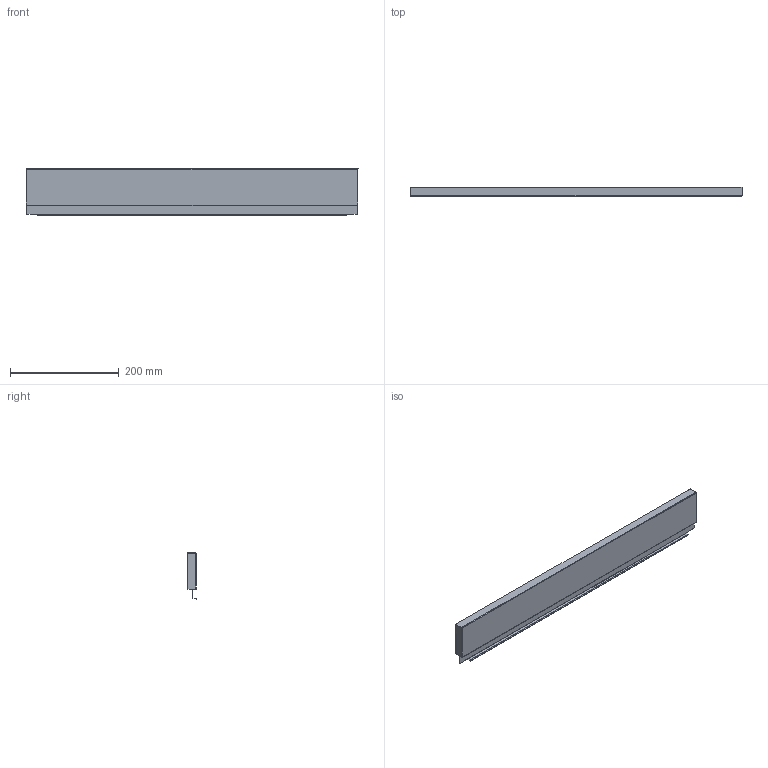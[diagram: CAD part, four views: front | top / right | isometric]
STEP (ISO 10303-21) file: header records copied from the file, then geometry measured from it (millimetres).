
FILE_DESCRIPTION (( 'STEP AP214' ), '1' );
FILE_NAME ('_STRW_H90_KAB_700.step', '2010-08-24T14:40:16', ( 'grass' ), ( '' ), 'SwSTEP 2.0', 'SolidWorks 2009', '' );
FILE_SCHEMA (( 'AUTOMOTIVE_DESIGN' ));
Length unit declared in the file: millimetre
Products named in the file (1): _STRW_H90_KAB_700
Bounding box: 610 x 17 x 85.14 mm (x, y, z)
Volume: 56444.9 mm3; surface area: 142346.1 mm2
Topology: 1 solids, 1 shells, 76 faces, 214 edges, 140 vertices
Faces by surface type: plane 54, cylinder 22
Entity records: 2472 total; most frequent: CARTESIAN_POINT 431, ORIENTED_EDGE 428, DIRECTION 412, EDGE_CURVE 214, LINE 170, VECTOR 170, VERTEX_POINT 140, AXIS2_PLACEMENT_3D 121
